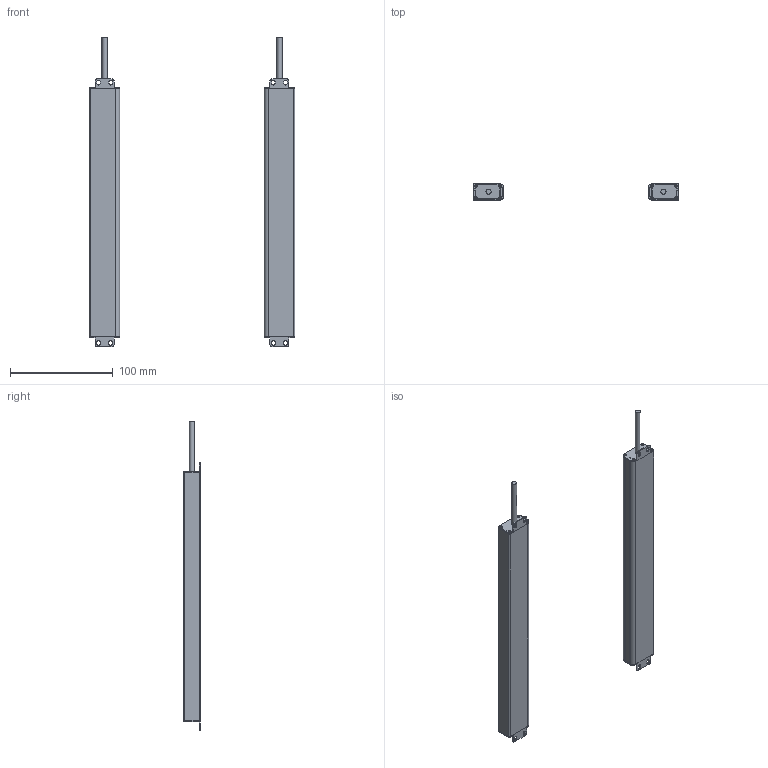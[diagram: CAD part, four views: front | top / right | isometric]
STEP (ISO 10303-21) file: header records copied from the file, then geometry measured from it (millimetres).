
FILE_DESCRIPTION(/* description */ (''),/* implementation_level */ '2;1');
FILE_NAME(/* name */ '1220（16X30ZW).stp',/* time_stamp */ '2020-07-14T19:07:04+08:00',/* author */ (''),/* organization */ (''),/* preprocessor_version */ 'ST-DEVELOPER v16',/* originating_system */ 'SIEMENS PLM Software NX 10.0',/* authorisation */ '');
FILE_SCHEMA (('AP203_CONFIGURATION_CONTROLLED_3D_DESIGN_OF_MECHANICAL_PARTS_AND_ASSEMBLIES_MIM_LF { 1 0 10303 403 2 1 2}'));
Length unit declared in the file: millimetre
Products named in the file (1): Admi58A03253m7dp
Bounding box: 200 x 16 x 301.5 mm (x, y, z)
Volume: 72487.9 mm3; surface area: 107790.5 mm2
Topology: 10 solids, 10 shells, 296 faces, 830 edges, 554 vertices
Faces by surface type: plane 160, cylinder 136
Full cylindrical faces by diameter (mm): 5 x2
Entity records: 9760 total; most frequent: DIRECTION 1692, CARTESIAN_POINT 1675, ORIENTED_EDGE 1652, EDGE_CURVE 826, AXIS2_PLACEMENT_3D 569, LINE 554, VECTOR 554, VERTEX_POINT 552
